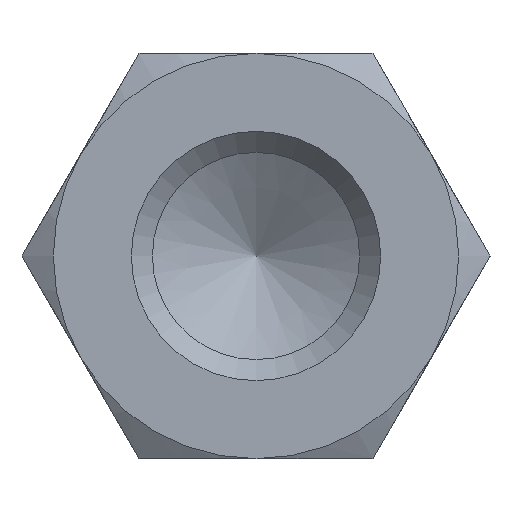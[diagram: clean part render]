
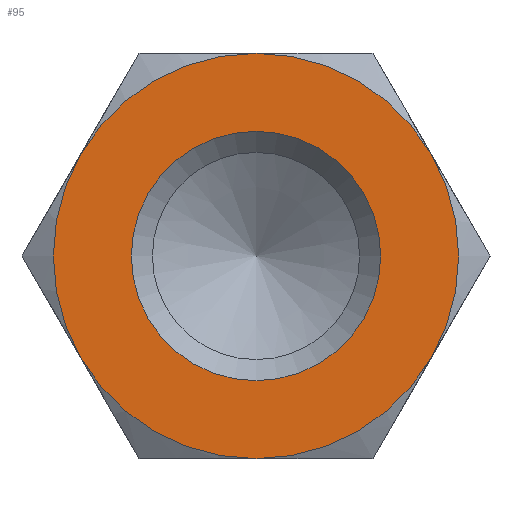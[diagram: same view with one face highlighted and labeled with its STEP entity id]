
A CAD part, left-side view. The second image highlights one B-rep face of the part: STEP entity #95.
In plain terms, the highlighted planar face has unit normal (-1, 0, 0).
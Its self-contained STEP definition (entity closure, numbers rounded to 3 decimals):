
#95 = ADVANCED_FACE( '', ( #147, #148 ), #149, .F. );
#147 = FACE_OUTER_BOUND( '', #206, .T. );
#148 = FACE_BOUND( '', #207, .T. );
#149 = PLANE( '', #208 );
#206 = EDGE_LOOP( '', ( #356, #357, #358, #359, #360, #361 ) );
#207 = EDGE_LOOP( '', ( #362 ) );
#208 = AXIS2_PLACEMENT_3D( '', #363, #364, #365 );
#356 = ORIENTED_EDGE( '', *, *, #440, .F. );
#357 = ORIENTED_EDGE( '', *, *, #425, .F. );
#358 = ORIENTED_EDGE( '', *, *, #441, .F. );
#359 = ORIENTED_EDGE( '', *, *, #437, .F. );
#360 = ORIENTED_EDGE( '', *, *, #442, .F. );
#361 = ORIENTED_EDGE( '', *, *, #443, .F. );
#362 = ORIENTED_EDGE( '', *, *, #439, .T. );
#363 = CARTESIAN_POINT( '', ( -60., 0., 0. ) );
#364 = DIRECTION( '', ( 1., 0., 0. ) );
#365 = DIRECTION( '', ( 0., 0., -1. ) );
#425 = EDGE_CURVE( '', #495, #493, #497, .T. );
#437 = EDGE_CURVE( '', #447, #506, #513, .T. );
#439 = EDGE_CURVE( '', #516, #516, #517, .T. );
#440 = EDGE_CURVE( '', #493, #486, #518, .T. );
#441 = EDGE_CURVE( '', #506, #495, #519, .T. );
#442 = EDGE_CURVE( '', #481, #447, #520, .T. );
#443 = EDGE_CURVE( '', #486, #481, #521, .T. );
#447 = VERTEX_POINT( '', #525 );
#481 = VERTEX_POINT( '', #607 );
#486 = VERTEX_POINT( '', #623 );
#493 = VERTEX_POINT( '', #650 );
#495 = VERTEX_POINT( '', #657 );
#497 = CIRCLE( '', #664, 6.5 );
#506 = VERTEX_POINT( '', #690 );
#513 = CIRCLE( '', #733, 6.5 );
#516 = VERTEX_POINT( '', #736 );
#517 = CIRCLE( '', #737, 4. );
#518 = CIRCLE( '', #738, 6.5 );
#519 = CIRCLE( '', #739, 6.5 );
#520 = CIRCLE( '', #740, 6.5 );
#521 = CIRCLE( '', #741, 6.5 );
#525 = CARTESIAN_POINT( '', ( -60., -5.629, 3.25 ) );
#607 = CARTESIAN_POINT( '', ( -60., 0., 6.5 ) );
#623 = CARTESIAN_POINT( '', ( -60., 5.629, 3.25 ) );
#650 = CARTESIAN_POINT( '', ( -60., 5.629, -3.25 ) );
#657 = CARTESIAN_POINT( '', ( -60., 0., -6.5 ) );
#664 = AXIS2_PLACEMENT_3D( '', #776, #777, #778 );
#690 = CARTESIAN_POINT( '', ( -60., -5.629, -3.25 ) );
#733 = AXIS2_PLACEMENT_3D( '', #781, #782, #783 );
#736 = CARTESIAN_POINT( '', ( -60., 0., -4. ) );
#737 = AXIS2_PLACEMENT_3D( '', #787, #788, #789 );
#738 = AXIS2_PLACEMENT_3D( '', #790, #791, #792 );
#739 = AXIS2_PLACEMENT_3D( '', #793, #794, #795 );
#740 = AXIS2_PLACEMENT_3D( '', #796, #797, #798 );
#741 = AXIS2_PLACEMENT_3D( '', #799, #800, #801 );
#776 = CARTESIAN_POINT( '', ( -60., 0., 0. ) );
#777 = DIRECTION( '', ( 1., 0., 0. ) );
#778 = DIRECTION( '', ( 0., 0., -1. ) );
#781 = CARTESIAN_POINT( '', ( -60., 0., 0. ) );
#782 = DIRECTION( '', ( 1., 0., 0. ) );
#783 = DIRECTION( '', ( 0., 0., -1. ) );
#787 = CARTESIAN_POINT( '', ( -60., 0., 0. ) );
#788 = DIRECTION( '', ( 1., 0., 0. ) );
#789 = DIRECTION( '', ( 0., 0., -1. ) );
#790 = CARTESIAN_POINT( '', ( -60., 0., 0. ) );
#791 = DIRECTION( '', ( 1., 0., 0. ) );
#792 = DIRECTION( '', ( 0., 0., -1. ) );
#793 = CARTESIAN_POINT( '', ( -60., 0., 0. ) );
#794 = DIRECTION( '', ( 1., 0., 0. ) );
#795 = DIRECTION( '', ( 0., 0., -1. ) );
#796 = CARTESIAN_POINT( '', ( -60., 0., 0. ) );
#797 = DIRECTION( '', ( 1., 0., 0. ) );
#798 = DIRECTION( '', ( 0., 0., -1. ) );
#799 = CARTESIAN_POINT( '', ( -60., 0., 0. ) );
#800 = DIRECTION( '', ( 1., 0., 0. ) );
#801 = DIRECTION( '', ( 0., 0., -1. ) );
